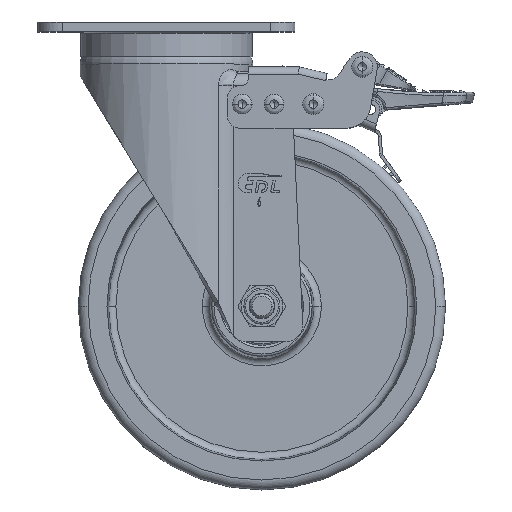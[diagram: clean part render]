
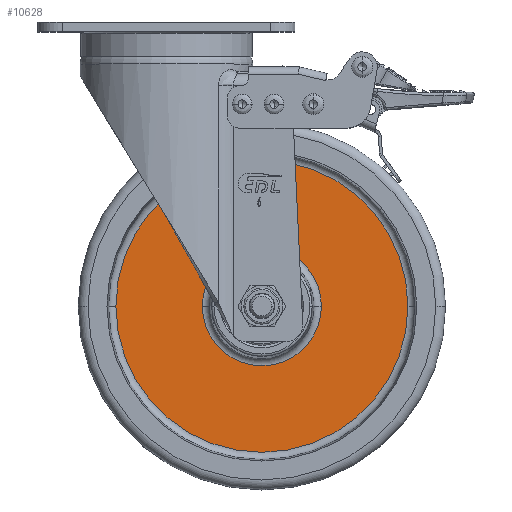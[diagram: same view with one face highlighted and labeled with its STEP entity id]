
A CAD part, top view. The second image highlights one B-rep face of the part: STEP entity #10628.
In plain terms, the highlighted planar face has unit normal (0, 0, 1) as drawn and (1, 0, 0) by its records, which use the part's own axes.
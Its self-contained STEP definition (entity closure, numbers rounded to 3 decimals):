
#9968=CARTESIAN_POINT('',(3.,0.,0.));
#9969=DIRECTION('',(-1.,0.,0.));
#9970=DIRECTION('',(0.,-1.,0.));
#9971=AXIS2_PLACEMENT_3D('',#9968,#9969,#9970);
#9973=CARTESIAN_POINT('',(3.,0.,0.));
#9974=DIRECTION('',(-1.,0.,0.));
#9975=DIRECTION('',(0.,1.,0.));
#9976=AXIS2_PLACEMENT_3D('',#9973,#9974,#9975);
#9978=CARTESIAN_POINT('',(3.,0.,0.));
#9979=DIRECTION('',(1.,0.,0.));
#9980=DIRECTION('',(0.,-1.,0.));
#9981=AXIS2_PLACEMENT_3D('',#9978,#9979,#9980);
#9983=CARTESIAN_POINT('',(3.,0.,0.));
#9984=DIRECTION('',(1.,0.,0.));
#9985=DIRECTION('',(0.,1.,0.));
#9986=AXIS2_PLACEMENT_3D('',#9983,#9984,#9985);
#10352=CARTESIAN_POINT('',(3.,59.629,0.));
#10353=VERTEX_POINT('',#10352);
#10354=CARTESIAN_POINT('',(3.,-59.629,
0.));
#10355=VERTEX_POINT('',#10354);
#10356=CARTESIAN_POINT('',(3.,-24.305,0.));
#10357=CARTESIAN_POINT('',(3.,24.305,0.));
#10358=VERTEX_POINT('',#10356);
#10359=VERTEX_POINT('',#10357);
#10613=CARTESIAN_POINT('',(3.,0.,0.));
#10614=DIRECTION('',(1.,0.,0.));
#10615=DIRECTION('',(0.,-1.,0.));
#10616=AXIS2_PLACEMENT_3D('',#10613,#10614,#10615);
#10617=PLANE('',#10616);
#10618=ORIENTED_EDGE('',*,*,#10592,.T.);
#10619=ORIENTED_EDGE('',*,*,#10608,.T.);
#10620=EDGE_LOOP('',(#10618,#10619));
#10621=FACE_OUTER_BOUND('',#10620,.F.);
#10623=ORIENTED_EDGE('',*,*,#10622,.T.);
#10625=ORIENTED_EDGE('',*,*,#10624,.T.);
#10626=EDGE_LOOP('',(#10623,#10625));
#10627=FACE_BOUND('',#10626,.F.);
#9972=CIRCLE('',#9971,59.629);
#9977=CIRCLE('',#9976,59.629);
#9982=CIRCLE('',#9981,24.305);
#9987=CIRCLE('',#9986,24.305);
#10592=EDGE_CURVE('',#10355,#10353,#9972,.T.);
#10608=EDGE_CURVE('',#10353,#10355,#9977,.T.);
#10622=EDGE_CURVE('',#10358,#10359,#9982,.T.);
#10624=EDGE_CURVE('',#10359,#10358,#9987,.T.);
#10628=ADVANCED_FACE('',(#10621,#10627),#10617,.T.);
